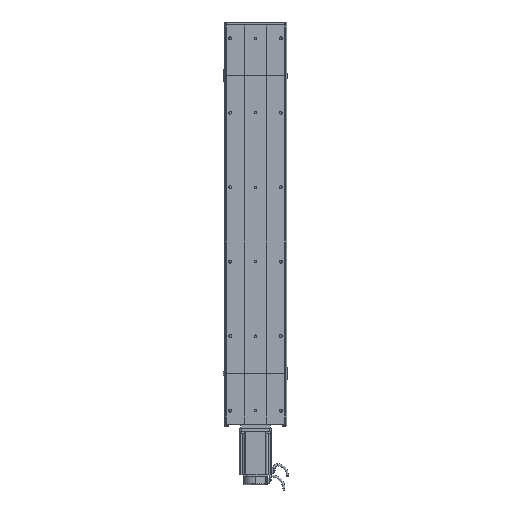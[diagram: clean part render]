
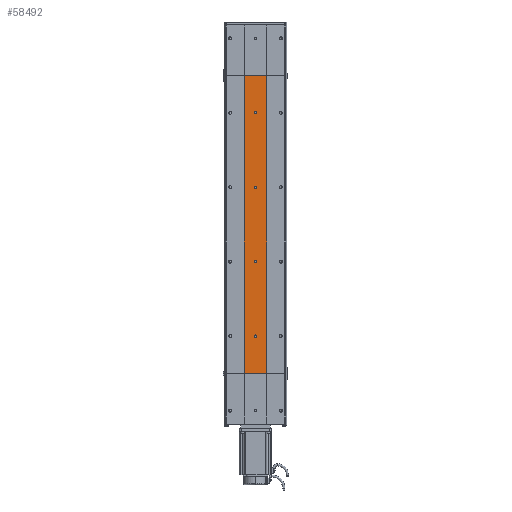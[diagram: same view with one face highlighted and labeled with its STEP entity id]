
A CAD part, front view. The second image highlights one B-rep face of the part: STEP entity #58492.
In plain terms, the highlighted planar face has unit normal (0, -1, 0).
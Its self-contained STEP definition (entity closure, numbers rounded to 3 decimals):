
#1070 = CARTESIAN_POINT ( 'NONE',  ( 0., -32.5, 103. ) ) ;
#7071 = CARTESIAN_POINT ( 'NONE',  ( 0., -32.5, 100. ) ) ;
#7126 = DIRECTION ( 'NONE',  ( 0., 0., -1. ) ) ;
#7127 = DIRECTION ( 'NONE',  ( 0., -1., 0. ) ) ;
#7128 = AXIS2_PLACEMENT_3D ( 'NONE', #7071, #7127, #7126 ) ;
#7131 = CIRCLE ( 'NONE', #7128, 3. ) ;
#8189 = CARTESIAN_POINT ( 'NONE',  ( 0., -32.5, 97. ) ) ;
#29136 = VECTOR ( 'NONE', #29265, 1000. ) ;
#29138 = CARTESIAN_POINT ( 'NONE',  ( -30., -32.5, 800. ) ) ;
#29140 = LINE ( 'NONE', #29138, #29136 ) ;
#29148 = CARTESIAN_POINT ( 'NONE',  ( 30., -32.5, 800. ) ) ;
#29265 = DIRECTION ( 'NONE',  ( -1., 0., 0. ) ) ;
#29327 = CARTESIAN_POINT ( 'NONE',  ( -30., -32.5, 800. ) ) ;
#32827 = CARTESIAN_POINT ( 'NONE',  ( -30., -32.5, 0. ) ) ;
#32828 = CARTESIAN_POINT ( 'NONE',  ( 30., -32.5, 0. ) ) ;
#32829 = CARTESIAN_POINT ( 'NONE',  ( -30., -32.5, 0. ) ) ;
#32830 = LINE ( 'NONE', #32829, #32859 ) ;
#32858 = DIRECTION ( 'NONE',  ( -1., 0., 0. ) ) ;
#32859 = VECTOR ( 'NONE', #32858, 1000. ) ;
#33598 = DIRECTION ( 'NONE',  ( 0., -1., 0. ) ) ;
#33604 = CIRCLE ( 'NONE', #33627, 3. ) ;
#33605 = CIRCLE ( 'NONE', #33643, 3. ) ;
#33622 = CARTESIAN_POINT ( 'NONE',  ( 0., -32.5, 300. ) ) ;
#33627 = AXIS2_PLACEMENT_3D ( 'NONE', #33622, #33598, #33636 ) ;
#33631 = CARTESIAN_POINT ( 'NONE',  ( 0., -32.5, 100. ) ) ;
#33634 = DIRECTION ( 'NONE',  ( 0., -1., 0. ) ) ;
#33636 = DIRECTION ( 'NONE',  ( 0., 0., -1. ) ) ;
#33639 = DIRECTION ( 'NONE',  ( 0., 0., -1. ) ) ;
#33643 = AXIS2_PLACEMENT_3D ( 'NONE', #33631, #33634, #33639 ) ;
#33686 = FACE_OUTER_BOUND ( 'NONE', #58469, .T. ) ;
#33687 = FACE_BOUND ( 'NONE', #58375, .T. ) ;
#33694 = FACE_BOUND ( 'NONE', #58488, .T. ) ;
#33700 = DIRECTION ( 'NONE',  ( 0., 0., 1. ) ) ;
#33701 = VECTOR ( 'NONE', #33700, 1000. ) ;
#33702 = CARTESIAN_POINT ( 'NONE',  ( 30., -32.5, 0. ) ) ;
#33703 = LINE ( 'NONE', #33702, #33701 ) ;
#33711 = FACE_BOUND ( 'NONE', #58378, .T. ) ;
#33718 = AXIS2_PLACEMENT_3D ( 'NONE', #33733, #33735, #33778 ) ;
#33720 = CARTESIAN_POINT ( 'NONE',  ( 0., -32.5, 500. ) ) ;
#33726 = CIRCLE ( 'NONE', #33718, 3. ) ;
#33727 = DIRECTION ( 'NONE',  ( 0., 0., 1. ) ) ;
#33728 = DIRECTION ( 'NONE',  ( 0., 1., 0. ) ) ;
#33729 = CARTESIAN_POINT ( 'NONE',  ( -30., -32.5, 0. ) ) ;
#33730 = AXIS2_PLACEMENT_3D ( 'NONE', #33729, #33728, #33727 ) ;
#33733 = CARTESIAN_POINT ( 'NONE',  ( 0., -32.5, 700. ) ) ;
#33735 = DIRECTION ( 'NONE',  ( 0., -1., 0. ) ) ;
#33740 = FACE_BOUND ( 'NONE', #58372, .T. ) ;
#33741 = PLANE ( 'NONE',  #33730 ) ;
#33768 = DIRECTION ( 'NONE',  ( 0., 0., -1. ) ) ;
#33769 = DIRECTION ( 'NONE',  ( 0., -1., 0. ) ) ;
#33776 = CIRCLE ( 'NONE', #33777, 3. ) ;
#33777 = AXIS2_PLACEMENT_3D ( 'NONE', #33720, #33769, #33768 ) ;
#33778 = DIRECTION ( 'NONE',  ( 0., 0., -1. ) ) ;
#33787 = DIRECTION ( 'NONE',  ( 0., 0., 1. ) ) ;
#33788 = VECTOR ( 'NONE', #33787, 1000. ) ;
#33789 = CARTESIAN_POINT ( 'NONE',  ( -30., -32.5, 0. ) ) ;
#33790 = LINE ( 'NONE', #33789, #33788 ) ;
#50391 = VERTEX_POINT ( 'NONE', #1070 ) ;
#52327 = EDGE_CURVE ( 'NONE', #50391, #52667, #7131, .T. ) ;
#52667 = VERTEX_POINT ( 'NONE', #8189 ) ;
#57206 = EDGE_CURVE ( 'NONE', #57220, #57238, #29140, .T. ) ;
#57220 = VERTEX_POINT ( 'NONE', #29148 ) ;
#57238 = VERTEX_POINT ( 'NONE', #29327 ) ;
#58059 = VERTEX_POINT ( 'NONE', #32828 ) ;
#58061 = VERTEX_POINT ( 'NONE', #32827 ) ;
#58067 = EDGE_CURVE ( 'NONE', #58059, #58061, #32830, .T. ) ;
#58365 = ORIENTED_EDGE ( 'NONE', *, *, #58496, .F. ) ;
#58372 = EDGE_LOOP ( 'NONE', ( #58506, #58466 ) ) ;
#58375 = EDGE_LOOP ( 'NONE', ( #58504, #58416 ) ) ;
#58378 = EDGE_LOOP ( 'NONE', ( #58365, #58494 ) ) ;
#58416 = ORIENTED_EDGE ( 'NONE', *, *, #52327, .F. ) ;
#58464 = EDGE_CURVE ( 'NONE', #66785, #66786, #33604, .T. ) ;
#58466 = ORIENTED_EDGE ( 'NONE', *, *, #66825, .F. ) ;
#58469 = EDGE_LOOP ( 'NONE', ( #58471, #58476, #58485, #58474 ) ) ;
#58471 = ORIENTED_EDGE ( 'NONE', *, *, #57206, .T. ) ;
#58472 = EDGE_CURVE ( 'NONE', #52667, #50391, #33605, .T. ) ;
#58474 = ORIENTED_EDGE ( 'NONE', *, *, #58483, .T. ) ;
#58476 = ORIENTED_EDGE ( 'NONE', *, *, #58516, .F. ) ;
#58483 = EDGE_CURVE ( 'NONE', #58059, #57220, #33703, .T. ) ;
#58485 = ORIENTED_EDGE ( 'NONE', *, *, #58067, .F. ) ;
#58488 = EDGE_LOOP ( 'NONE', ( #58502, #58498 ) ) ;
#58492 = ADVANCED_FACE ( 'NONE', ( #33711, #33694, #33740, #33687, #33686 ), #33741, .F. ) ;
#58494 = ORIENTED_EDGE ( 'NONE', *, *, #66739, .F. ) ;
#58496 = EDGE_CURVE ( 'NONE', #66777, #66769, #33726, .T. ) ;
#58498 = ORIENTED_EDGE ( 'NONE', *, *, #66810, .F. ) ;
#58500 = EDGE_CURVE ( 'NONE', #66793, #66778, #33776, .T. ) ;
#58502 = ORIENTED_EDGE ( 'NONE', *, *, #58500, .F. ) ;
#58504 = ORIENTED_EDGE ( 'NONE', *, *, #58472, .F. ) ;
#58506 = ORIENTED_EDGE ( 'NONE', *, *, #58464, .F. ) ;
#58516 = EDGE_CURVE ( 'NONE', #58061, #57238, #33790, .T. ) ;
#66739 = EDGE_CURVE ( 'NONE', #66769, #66777, #70631, .T. ) ;
#66769 = VERTEX_POINT ( 'NONE', #70683 ) ;
#66777 = VERTEX_POINT ( 'NONE', #70667 ) ;
#66778 = VERTEX_POINT ( 'NONE', #70666 ) ;
#66785 = VERTEX_POINT ( 'NONE', #70723 ) ;
#66786 = VERTEX_POINT ( 'NONE', #70724 ) ;
#66793 = VERTEX_POINT ( 'NONE', #70709 ) ;
#66810 = EDGE_CURVE ( 'NONE', #66778, #66793, #70753, .T. ) ;
#66825 = EDGE_CURVE ( 'NONE', #66786, #66785, #70812, .T. ) ;
#70555 = CARTESIAN_POINT ( 'NONE',  ( 0., -32.5, 700. ) ) ;
#70559 = AXIS2_PLACEMENT_3D ( 'NONE', #70555, #70634, #70624 ) ;
#70624 = DIRECTION ( 'NONE',  ( 0., 0., -1. ) ) ;
#70631 = CIRCLE ( 'NONE', #70559, 3. ) ;
#70634 = DIRECTION ( 'NONE',  ( 0., -1., 0. ) ) ;
#70666 = CARTESIAN_POINT ( 'NONE',  ( 0., -32.5, 503. ) ) ;
#70667 = CARTESIAN_POINT ( 'NONE',  ( 0., -32.5, 697. ) ) ;
#70683 = CARTESIAN_POINT ( 'NONE',  ( 0., -32.5, 703. ) ) ;
#70709 = CARTESIAN_POINT ( 'NONE',  ( 0., -32.5, 497. ) ) ;
#70723 = CARTESIAN_POINT ( 'NONE',  ( 0., -32.5, 297. ) ) ;
#70724 = CARTESIAN_POINT ( 'NONE',  ( 0., -32.5, 303. ) ) ;
#70753 = CIRCLE ( 'NONE', #70783, 3. ) ;
#70780 = DIRECTION ( 'NONE',  ( 0., 0., -1. ) ) ;
#70781 = DIRECTION ( 'NONE',  ( 0., -1., 0. ) ) ;
#70782 = CARTESIAN_POINT ( 'NONE',  ( 0., -32.5, 500. ) ) ;
#70783 = AXIS2_PLACEMENT_3D ( 'NONE', #70782, #70781, #70780 ) ;
#70799 = DIRECTION ( 'NONE',  ( 0., 0., -1. ) ) ;
#70809 = AXIS2_PLACEMENT_3D ( 'NONE', #70810, #70815, #70799 ) ;
#70810 = CARTESIAN_POINT ( 'NONE',  ( 0., -32.5, 300. ) ) ;
#70812 = CIRCLE ( 'NONE', #70809, 3. ) ;
#70815 = DIRECTION ( 'NONE',  ( 0., -1., 0. ) ) ;
